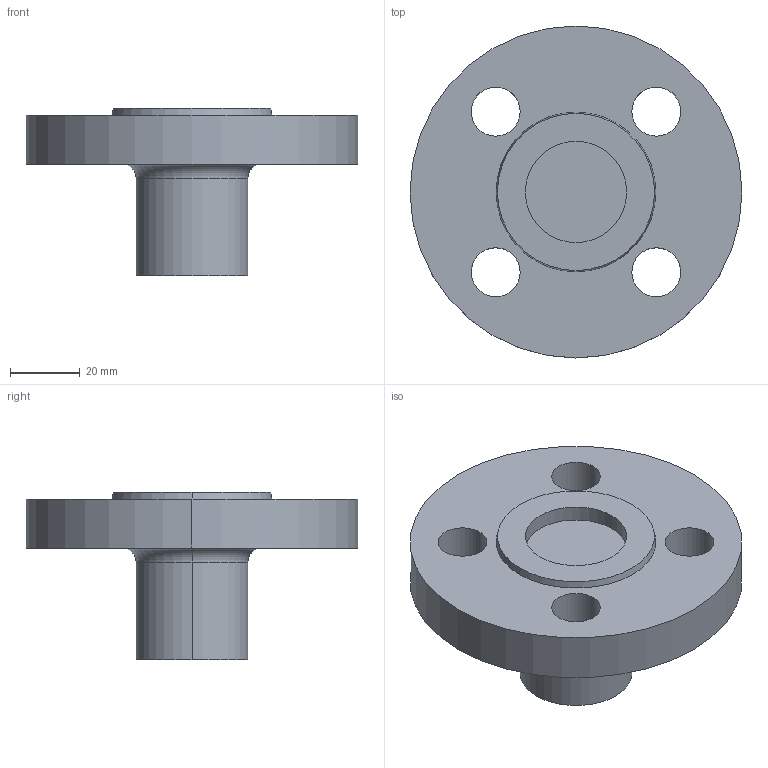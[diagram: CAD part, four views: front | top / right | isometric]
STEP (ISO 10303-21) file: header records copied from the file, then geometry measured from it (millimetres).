
FILE_DESCRIPTION (( 'STEP AP214' ), '1' );
FILE_NAME ('PN40 DN15 Type 21(i) - Type G Face.STEP', '2018-12-29T14:27:58', ( '' ), ( '' ), 'SwSTEP 2.0', 'SolidWorks 2019', '' );
FILE_SCHEMA (( 'AUTOMOTIVE_DESIGN' ));
Length unit declared in the file: millimetre
Products named in the file (1): PN40 DN15 Type 21(i) - Type G Face
Bounding box: 95 x 95 x 48 mm (x, y, z)
Volume: 116973.6 mm3; surface area: 23286.9 mm2
Topology: 1 solids, 1 shells, 23 faces, 52 edges, 34 vertices
Faces by surface type: cylinder 14, plane 5, torus 2, cone 2
Entity records: 716 total; most frequent: DIRECTION 136, CARTESIAN_POINT 110, ORIENTED_EDGE 104, AXIS2_PLACEMENT_3D 60, EDGE_CURVE 52, CIRCLE 36, VERTEX_POINT 34, EDGE_LOOP 34
